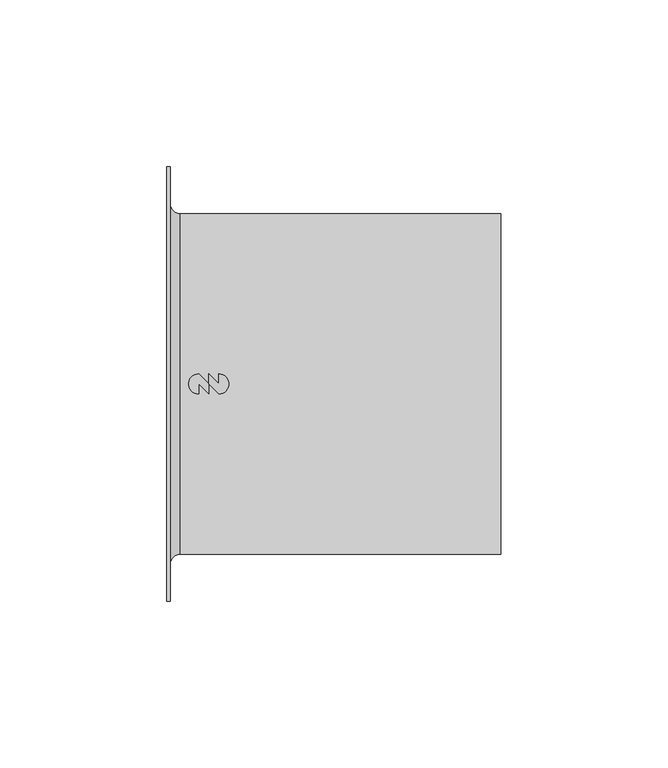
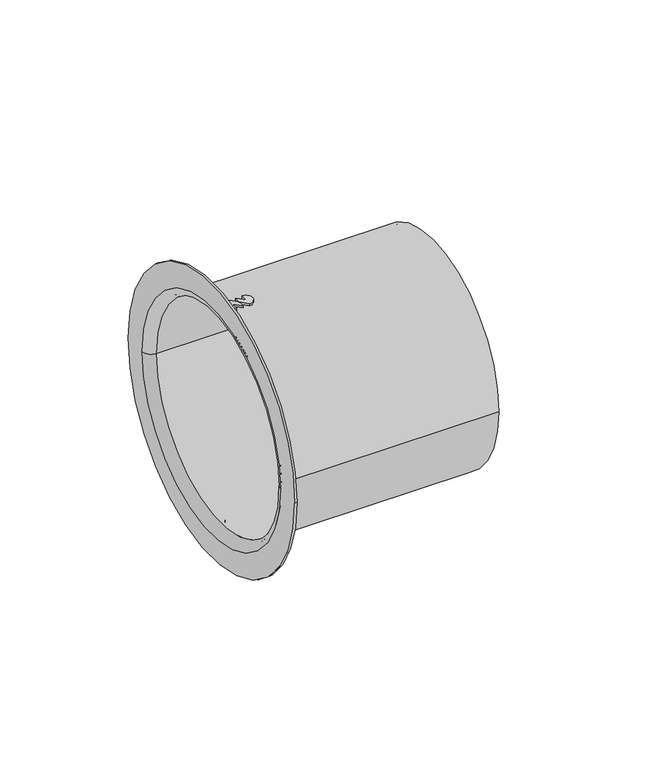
"""IFC4 building model written with IfcOpenShell, lengths in millimetres: duct fitting geometry, NLRS_57_DUF_UN_instortkanaal-ronde-aansluitstuts-buismaat_LT_velu : VIK aansluitstuts."""

from ifc_helpers import new_model, si_unit, point, frame, frame_2d, origin, place, context, project, spatial, polyline, circle_curve, ellipse_curve, trimmed, segment, composite_curve, outline, extrude, source, transform, mapped, element, save
from ifc_brep_helpers import plane_surface, cylinder_surface, revolved_surface, advanced_brep


def duct_fitting_448a302e(model_context):
    return source(origin(), model_context, "Body", "SolidModel", [
        extrude(outline(composite_curve([segment(trimmed(circle_curve(frame_2d((15.5, 0.0)), 3.0), [point((15.5, 3.0))], [point((15.5, -3.0))], False, "CARTESIAN"), True, "CONTINUOUS"), segment(polyline([(15.5, -3.0), (12.5, 0.0), (12.5, 3.0), (15.5, 0.0), (15.5, 3.0)]), True, "CONTINUOUS")], self_intersect=False)), frame((0.0, 0.0, 51.0), z_axis=(0.0, 0.0, 1.0), x_axis=(1.0, 0.0, 0.0)), (0.0, 0.0, 1.0), 1.0),
        extrude(outline(composite_curve([segment(trimmed(circle_curve(frame_2d((9.5, 0.0)), 3.0), [point((9.5, -3.0))], [point((9.5, 3.0))], False, "CARTESIAN"), True, "CONTINUOUS"), segment(polyline([(9.5, 3.0), (12.5, 0.0), (12.5, -3.0), (9.5, 0.0), (9.5, -3.0)]), True, "CONTINUOUS")], self_intersect=False)), frame((0.0, 0.0, 51.0), z_axis=(0.0, 0.0, 1.0), x_axis=(1.0, 0.0, 0.0)), (0.0, 0.0, 1.0), 1.0),
        extrude(outline(composite_curve([segment(trimmed(circle_curve(frame_2d((15.5, 0.0)), 3.0), [point((15.5, 3.0))], [point((15.5, -3.0))], False, "CARTESIAN"), True, "CONTINUOUS"), segment(polyline([(15.5, -3.0), (12.5, 0.0), (12.5, 3.0), (15.5, 0.0), (15.5, 3.0)]), True, "CONTINUOUS")], self_intersect=False)), frame((0.0, 0.0, -52.0), z_axis=(0.0, 0.0, 1.0), x_axis=(1.0, 0.0, 0.0)), (0.0, 0.0, 1.0), 1.0),
        extrude(outline(composite_curve([segment(trimmed(circle_curve(frame_2d((9.5, 0.0)), 3.0), [point((9.5, -3.0))], [point((9.5, 3.0))], False, "CARTESIAN"), True, "CONTINUOUS"), segment(polyline([(9.5, 3.0), (12.5, 0.0), (12.5, -3.0), (9.5, 0.0), (9.5, -3.0)]), True, "CONTINUOUS")], self_intersect=False)), frame((0.0, 0.0, -52.0), z_axis=(0.0, 0.0, 1.0), x_axis=(1.0, 0.0, 0.0)), (0.0, 0.0, 1.0), 1.0),
        advanced_brep(
        [(100.0, 51.0, 0.0), (100.0, -51.0, 0.0), (4.0, -51.0, 0.0), (4.0, 51.0, 0.0), (1.0, -54.0, 0.0), (1.0, 54.0, 0.0), (0.0, 54.0, 0.0), (0.0, -54.0, 0.0), (4.0, -50.0, 0.0), (4.0, 50.0, 0.0), (100.0, -50.0, 0.0), (100.0, 50.0, 0.0), (1.0, 65.0, 0.0), (1.0, -65.0, 0.0), (0.0, -65.0, 0.0), (0.0, 65.0, 0.0)],
        [
            (0, 1, circle_curve(frame((100.0, 0.0, 0.0), z_axis=(-1.0, 0.0, 0.0), x_axis=(0.0, -1.0, 0.0)), 51.0)),
            (1, 2),
            (2, 3, circle_curve(frame((4.0, 0.0, 0.0), z_axis=(1.0, 0.0, 0.0), x_axis=(0.0, -1.0, 0.0)), 51.0)),
            (3, 0),
            (2, 4, circle_curve(frame((4.0, -54.0, 0.0), z_axis=(0.0, 0.0, 1.0), x_axis=(1.0, 0.0, 0.0)), 3.0)),
            (4, 5, circle_curve(frame((1.0, 0.0, 0.0), z_axis=(1.0, 0.0, 0.0), x_axis=(0.0, -1.0, 0.0)), 54.0)),
            (5, 3, circle_curve(frame((4.0, 54.0, 0.0), z_axis=(0.0, 0.0, 1.0), x_axis=(1.0, 0.0, 0.0)), 3.0)),
            (6, 7, circle_curve(frame((0.0, 0.0, 0.0), z_axis=(-1.0, 0.0, 0.0), x_axis=(0.0, -1.0, 0.0)), 54.0)),
            (7, 8, circle_curve(frame((4.0, -54.0, 0.0), z_axis=(0.0, 0.0, -1.0), x_axis=(1.0, 0.0, 0.0)), 4.0)),
            (8, 9, circle_curve(frame((4.0, 0.0, 0.0), z_axis=(1.0, 0.0, 0.0), x_axis=(0.0, -1.0, 0.0)), 50.0)),
            (9, 6, circle_curve(frame((4.0, 54.0, 0.0), z_axis=(0.0, 0.0, -1.0), x_axis=(1.0, 0.0, 0.0)), 4.0)),
            (8, 10),
            (10, 11, circle_curve(frame((100.0, 0.0, 0.0), z_axis=(1.0, 0.0, 0.0), x_axis=(0.0, -1.0, 0.0)), 50.0)),
            (11, 9),
            (1, 0, circle_curve(frame((100.0, 0.0, 0.0), z_axis=(-1.0, 0.0, 0.0), x_axis=(0.0, 1.0, 0.0)), 51.0)),
            (3, 2, circle_curve(frame((4.0, 0.0, 0.0), z_axis=(1.0, 0.0, 0.0), x_axis=(0.0, 1.0, 0.0)), 51.0)),
            (5, 4, circle_curve(frame((1.0, 0.0, 0.0), z_axis=(1.0, 0.0, 0.0), x_axis=(0.0, 1.0, 0.0)), 54.0)),
            (7, 6, circle_curve(frame((0.0, 0.0, 0.0), z_axis=(-1.0, 0.0, 0.0), x_axis=(0.0, 1.0, 0.0)), 54.0)),
            (9, 8, circle_curve(frame((4.0, 0.0, 0.0), z_axis=(1.0, 0.0, 0.0), x_axis=(0.0, 1.0, 0.0)), 50.0)),
            (11, 10, circle_curve(frame((100.0, 0.0, 0.0), z_axis=(1.0, 0.0, 0.0), x_axis=(0.0, 1.0, 0.0)), 50.0)),
            (12, 13, circle_curve(frame((1.0, 0.0, 0.0), z_axis=(-1.0, 0.0, 0.0), x_axis=(0.0, -1.0, 0.0)), 65.0)),
            (13, 14),
            (14, 15, circle_curve(frame((0.0, 0.0, 0.0), z_axis=(1.0, 0.0, 0.0), x_axis=(0.0, -1.0, 0.0)), 65.0)),
            (15, 12),
            (14, 15, circle_curve(frame((0.0, 0.0, 0.0), z_axis=(-1.0, 0.0, 0.0), x_axis=(0.0, 1.0, 0.0)), 65.0)),
            (13, 12, circle_curve(frame((1.0, 0.0, 0.0), z_axis=(-1.0, 0.0, 0.0), x_axis=(0.0, 1.0, 0.0)), 65.0)),
        ],
        [
            cylinder_surface(frame((0.0, 0.0, 0.0), z_axis=(1.0, 0.0, 0.0), x_axis=(0.0, -1.0, 0.0)), 51.0),
            revolved_surface(trimmed(ellipse_curve(frame((4.0, -54.0, 0.0), z_axis=(0.0, 0.0, -1.0), x_axis=(1.0, 0.0, 0.0)), 3.0, 3.0), [point((1.0, -54.0, 0.0))], [point((4.0, -51.0, 0.0))], True, "CARTESIAN"), (0.0, 0.0, 0.0), (1.0, 0.0, 0.0)),
            revolved_surface(trimmed(ellipse_curve(frame((4.0, -54.0, 0.0), z_axis=(0.0, 0.0, 1.0), x_axis=(1.0, 0.0, 0.0)), 4.0, 4.0), [point((4.0, -50.0, 0.0))], [point((0.0, -54.0, 0.0))], True, "CARTESIAN"), (0.0, 0.0, 0.0), (1.0, 0.0, 0.0)),
            revolved_surface(polyline([(100.0, -50.0, 0.0), (4.0, -50.0, 0.0)]), (0.0, 0.0, 0.0), (1.0, 0.0, 0.0)),
            cylinder_surface(frame((0.0, 0.0, 0.0), z_axis=(1.0, 0.0, 0.0), x_axis=(0.0, 1.0, 0.0)), 51.0),
            revolved_surface(trimmed(ellipse_curve(frame((4.0, 54.0, 0.0), z_axis=(0.0, 0.0, 1.0), x_axis=(1.0, 0.0, 0.0)), 3.0, 3.0), [point((1.0, 54.0, 0.0))], [point((4.0, 51.0, 0.0))], True, "CARTESIAN"), (0.0, 0.0, 0.0), (1.0, 0.0, 0.0)),
            revolved_surface(trimmed(ellipse_curve(frame((4.0, 54.0, 0.0), z_axis=(0.0, 0.0, -1.0), x_axis=(1.0, 0.0, 0.0)), 4.0, 4.0), [point((4.0, 50.0, 0.0))], [point((0.0, 54.0, 0.0))], True, "CARTESIAN"), (0.0, 0.0, 0.0), (1.0, 0.0, 0.0)),
            revolved_surface(polyline([(100.0, 50.0, 0.0), (4.0, 50.0, 0.0)]), (0.0, 0.0, 0.0), (1.0, 0.0, 0.0)),
            plane_surface(frame((100.0, 0.0, 0.0), z_axis=(1.0, 0.0, 0.0), x_axis=(0.0, 1.0, 0.0))),
            cylinder_surface(frame((0.0, 0.0, 0.0), z_axis=(1.0, 0.0, 0.0), x_axis=(0.0, -1.0, 0.0)), 65.0),
            plane_surface(frame((0.0, 0.0, 0.0), z_axis=(-1.0, 0.0, 0.0), x_axis=(0.0, 1.0, 0.0))),
            cylinder_surface(frame((0.0, 0.0, 0.0), z_axis=(1.0, 0.0, 0.0), x_axis=(0.0, 1.0, 0.0)), 65.0),
            plane_surface(frame((1.0, 0.0, 0.0), z_axis=(1.0, 0.0, 0.0), x_axis=(0.0, 1.0, 0.0))),
        ],
        [
            (0, [[1, 2, 3, 4]]),
            (1, [[-3, 5, 6, 7]]),
            (2, [[8, 9, 10, 11]]),
            (3, [[-10, 12, 13, 14]]),
            (4, [[15, -4, 16, -2]]),
            (5, [[-16, -7, 17, -5]]),
            (6, [[18, -11, 19, -9]]),
            (7, [[-19, -14, 20, -12]]),
            (8, [[-15, -1], [-20, -13]]),
            (9, [[21, 22, 23, 24]]),
            (10, [[25, -23], [-18, -8]]),
            (11, [[26, -24, -25, -22]]),
            (12, [[-26, -21], [-17, -6]]),
        ],
    ),
    ])


if __name__ == "__main__":
    model = new_model("IFC4")
    model_context = context("Model", 3, world=origin())
    ifc_project = project(units=[si_unit("LENGTHUNIT", "METRE", prefix="MILLI")], contexts=[model_context])
    site = spatial("IfcSite", under=ifc_project)
    building = spatial("IfcBuilding", under=site)
    placement = place(None, origin())
    duct_fitting_shape = duct_fitting_448a302e(model_context)
    element("IfcDuctFitting", 1, ObjectType="NLRS_57_DUF_UN_instortkanaal-ronde-aansluitstuts-buismaat_LT_velu : VIK aansluitstuts", at=placement, inside=building, context=model_context, shape_type="MappedRepresentation", body=[
        mapped(duct_fitting_shape, transform((0.0, 0.0, 0.0), x_axis=(1.0, 0.0, 0.0), y_axis=(0.0, 1.0, 0.0), z_axis=(0.0, 0.0, 1.0))),
    ])
    save(model, "model.ifc")
